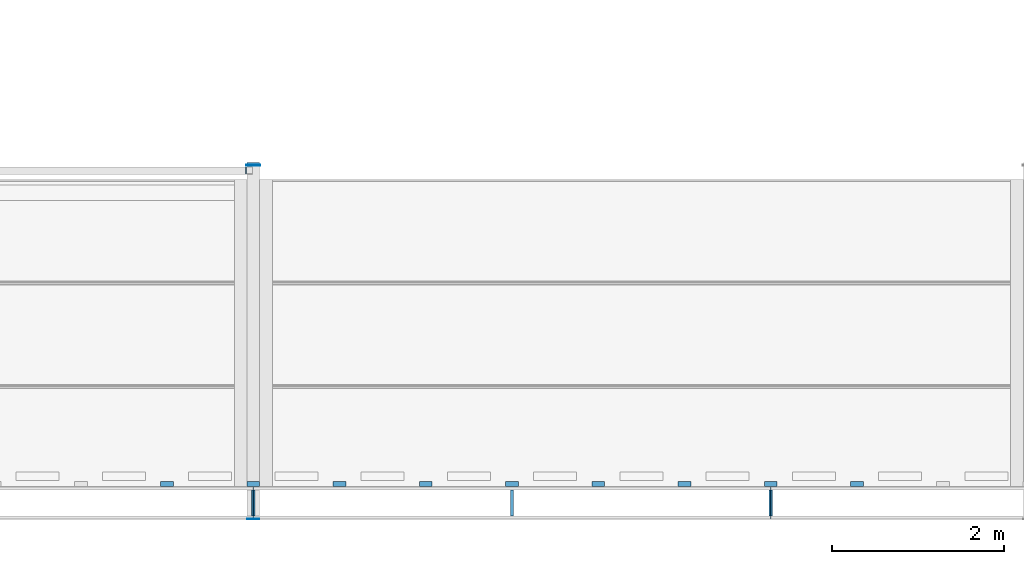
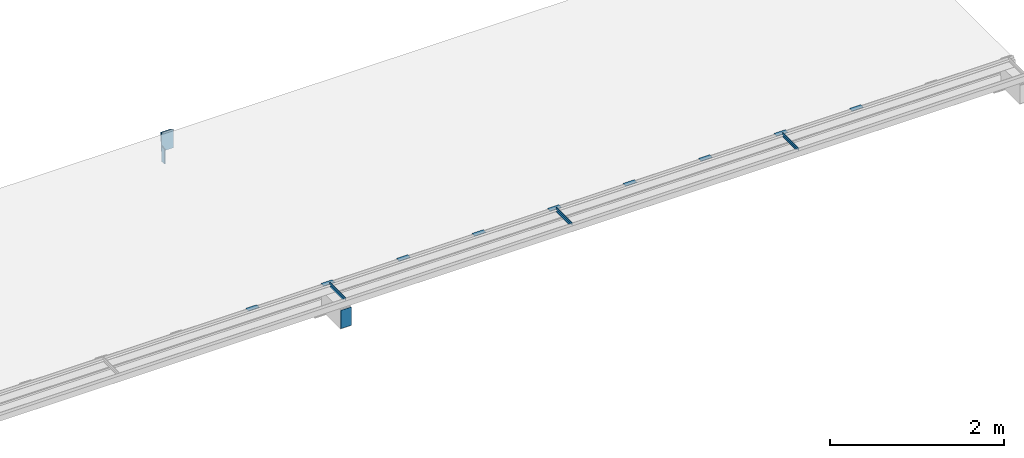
# One storey, part 7 of 13: 16 beams.
"""IFC2X3 building model written with IfcOpenShell, lengths in millimetres."""

import ifcopenshell
import ifcopenshell.guid

model = None  # the IFC model being written
_history = None  # IfcOwnerHistory: only IFC2X3 demands one
_inside = {}  # id of a spatial element -> (the spatial element, [elements in it])
_under = {}  # id of a project, library or spatial element -> (it, [spatial elements below it])
_declared = {}  # id of a project -> (the project, [libraries it declares])
_typed = {}  # id of a type object -> (the type object, [elements of that type])
_made_of = {}  # id of a material, layer set ... -> (it, [elements and type objects made of it])


def new_model(schema):
    """Start an empty IFC model of exactly this schema.

    Asked for "IFC4X3", IfcOpenShell would pick the latest addendum, in which some entities
    have other attributes; the version numbers below select the first issue.
    IFC2X3 requires an IfcOwnerHistory on every rooted entity: one is made here for all.
    """
    global model, _history
    if schema == "IFC4X3":
        model = ifcopenshell.file(schema_version=(4, 3, 0, 0))
    else:
        model = ifcopenshell.file(schema=schema)
    _inside.clear()
    _under.clear()
    _declared.clear()
    _typed.clear()
    _made_of.clear()
    _history = None
    if model.schema == "IFC2X3":
        org = make("IfcOrganization", Name="unknown")
        user = make(
            "IfcPersonAndOrganization",
            ThePerson=make("IfcPerson", FamilyName="unknown"),
            TheOrganization=org,
        )
        app = make(
            "IfcApplication",
            ApplicationDeveloper=org,
            Version="unknown",
            ApplicationFullName="unknown",
            ApplicationIdentifier="unknown",
        )
        _history = make(
            "IfcOwnerHistory",
            OwningUser=user,
            OwningApplication=app,
            ChangeAction="ADDED",
            CreationDate=0,
        )
    return model


def make(cls, **values):
    """One entity of the class cls with the attributes given. An attribute that is None is left unset."""
    return model.create_entity(
        cls, **{name: value for name, value in values.items() if value is not None}
    )


def entity(cls, *values):
    """Any entity or typed value of the class cls, its attributes in the order of the schema. None: left unset."""
    e = model.create_entity(cls)
    for i, value in enumerate(values):
        if value is not None:
            e[i] = value
    return e


def rooted(cls, **values):
    """An entity with a GlobalId (a new one), such as an element, a storey or a relation."""
    return make(cls, GlobalId=ifcopenshell.guid.new(), OwnerHistory=_history, **values)


def si_unit(unit_type, name, prefix=None):
    """IfcSIUnit, for example si_unit("LENGTHUNIT", "METRE", prefix="MILLI")."""
    return make("IfcSIUnit", UnitType=unit_type, Prefix=prefix, Name=name)


def converted_unit(unit_type, name, factor, base, dimensions=None, offset=None):
    """IfcConversionBasedUnit, such as the inch: factor (a typed value) times the base unit."""
    return make(
        "IfcConversionBasedUnit"
        if offset is None
        else "IfcConversionBasedUnitWithOffset",
        ConversionOffset=offset,
        Dimensions=None
        if dimensions is None
        else entity("IfcDimensionalExponents", *dimensions),
        UnitType=unit_type,
        Name=name,
        ConversionFactor=make(
            "IfcMeasureWithUnit", ValueComponent=factor, UnitComponent=base
        ),
    )


def derived_unit(unit_type, elements):
    """IfcDerivedUnit: a product of units, each with its exponent."""
    return make(
        "IfcDerivedUnit",
        Elements=[
            make("IfcDerivedUnitElement", Unit=unit, Exponent=power)
            for unit, power in elements
        ],
        UnitType=unit_type,
    )


def assignment(units):
    """IfcUnitAssignment: the units of a project."""
    return None if units is None else make("IfcUnitAssignment", Units=units)


def point(xyz):
    """IfcCartesianPoint."""
    return None if xyz is None else make("IfcCartesianPoint", Coordinates=xyz)


def direction(xyz):
    """IfcDirection."""
    return None if xyz is None else make("IfcDirection", DirectionRatios=xyz)


def frame(location, z_axis=None, x_axis=None):
    """IfcAxis2Placement3D, a coordinate frame: its origin and axes. An axis left out is left unset."""
    return make(
        "IfcAxis2Placement3D",
        Location=point(location),
        Axis=direction(z_axis),
        RefDirection=direction(x_axis),
    )


def origin_with_axes():
    """The frame at (0, 0, 0) with the z axis (0, 0, 1) and the x axis (1, 0, 0) written out."""
    return frame((0.0, 0.0, 0.0), z_axis=(0.0, 0.0, 1.0), x_axis=(1.0, 0.0, 0.0))


def place(relative_to, where):
    """IfcLocalPlacement: puts the frame where relative to a parent placement (None: the world)."""
    return make(
        "IfcLocalPlacement", PlacementRelTo=relative_to, RelativePlacement=where
    )


def context(
    kind, dimensions, precision=None, world=None, true_north=None, identifier=None
):
    """IfcGeometricRepresentationContext, for example the 3D "Model" context."""
    return make(
        "IfcGeometricRepresentationContext",
        ContextIdentifier=identifier,
        ContextType=kind,
        CoordinateSpaceDimension=dimensions,
        Precision=precision,
        WorldCoordinateSystem=world,
        TrueNorth=true_north,
    )


def subcontext(parent, identifier, kind, view, scale=None):
    """IfcGeometricRepresentationSubContext, for example "Body" below "Model"."""
    return make(
        "IfcGeometricRepresentationSubContext",
        ContextIdentifier=identifier,
        ContextType=kind,
        ParentContext=parent,
        TargetScale=scale,
        TargetView=view,
    )


def project(units=None, contexts=None):
    """IfcProject with its units and contexts."""
    return rooted(
        "IfcProject",
        Name="project",
        RepresentationContexts=contexts,
        UnitsInContext=assignment(units),
    )


def spatial(cls, under=None, at=None, **own):
    """A site, building, storey or space (cls), placed at a placement, below another one or the project."""
    s = rooted(cls, ObjectPlacement=at, **own)
    if under is not None:
        _under.setdefault(under.id(), (under, []))[1].append(s)
    return s


def faces_of(points, faces, orient=None, outer=None):
    """IfcFace entities. A face is a list of loops; a loop is a list of indices into points, from 0.

    orient and outer hold one flag for each loop. By default every Orientation is true, the
    first loop of a face is its IfcFaceOuterBound and the others are IfcFaceBound.
    """
    made = []
    for i, loops in enumerate(faces):
        bounds = []
        for j, loop in enumerate(loops):
            is_outer = j == 0 if outer is None else outer[i][j]
            bounds.append(
                make(
                    "IfcFaceOuterBound" if is_outer else "IfcFaceBound",
                    Bound=make("IfcPolyLoop", Polygon=[points[k] for k in loop]),
                    Orientation=True if orient is None else orient[i][j],
                )
            )
        made.append(make("IfcFace", Bounds=bounds))
    return made


def faceted_brep(points, faces, orient=None, outer=None, voids=None):
    """IfcFacetedBrep: a solid bounded by flat faces; with voids (closed shells), ...WithVoids."""
    shared = [point(p) for p in points]
    hull = make("IfcClosedShell", CfsFaces=faces_of(shared, faces, orient, outer))
    if voids is None:
        return make("IfcFacetedBrep", Outer=hull)
    return make(
        "IfcFacetedBrepWithVoids",
        Outer=hull,
        Voids=[
            make(cls, CfsFaces=faces_of(shared, fs, o, b)) for cls, fs, o, b in voids
        ],
    )


def shape(context_of_items, identifier, shape_type, items):
    """IfcShapeRepresentation: the items that make up one representation, for example the "Body"."""
    return make(
        "IfcShapeRepresentation",
        ContextOfItems=context_of_items,
        RepresentationIdentifier=identifier,
        RepresentationType=shape_type,
        Items=items,
    )


def material(Name=None, Category=None):
    """IfcMaterial."""
    return make("IfcMaterial", Name=Name, Category=Category)


def made_of(thing, what):
    """Note that an element or type object is made of a material, layer set ...; save() writes the relation."""
    if what is not None:
        _made_of.setdefault(what.id(), (what, []))[1].append(thing)
    return thing


def type_object(cls, material=None, **own):
    """A type object (cls), such as IfcWallType, which elements share."""
    return made_of(rooted(cls, **own), material)


def element(
    cls,
    number,
    at=None,
    inside=None,
    cuts=None,
    type_object=None,
    material=None,
    context=None,
    identifier="Body",
    shape_type=None,
    held_by="IfcProductDefinitionShape",
    body=None,
    shapes=None,
    **own,
):
    """One element of the class cls, such as IfcWall. Its Tag is "e" and its number.

    at: its placement. inside: the storey or other place that contains it. cuts: it is an
    opening in that element (IfcRelVoidsElement). A single representation is given by context,
    identifier, shape_type and body (its items); several are given by shapes. held_by: the class
    of the entity that holds the representations. save() writes the other relations.
    """
    e = rooted(cls, Tag="e%d" % number, ObjectPlacement=at, **own)
    if body is not None:
        shapes = [shape(context, identifier, shape_type, body)]
    if shapes is not None:
        e.Representation = make(held_by, Representations=shapes)
    if inside is not None:
        _inside.setdefault(inside.id(), (inside, []))[1].append(e)
    if cuts is not None:
        rooted(
            "IfcRelVoidsElement", RelatingBuildingElement=cuts, RelatedOpeningElement=e
        )
    if type_object is not None:
        _typed.setdefault(type_object.id(), (type_object, []))[1].append(e)
    return made_of(e, material)


def aggregate(whole, parts):
    """IfcRelAggregates: a whole, such as a stair, and the parts it consists of."""
    return rooted("IfcRelAggregates", RelatingObject=whole, RelatedObjects=parts)


def save(model, path):
    """Write the relations noted so far, then the file.

    IfcRelAggregates (storeys below a building ...), IfcRelContainedInSpatialStructure (elements
    in a storey), IfcRelDefinesByType, IfcRelAssociatesMaterial and IfcRelDeclares: one each for
    every whole, place, type object, material and project.
    """
    for whole, parts in _under.values():
        aggregate(whole, parts)
    for where, things in _inside.values():
        rooted(
            "IfcRelContainedInSpatialStructure",
            RelatedElements=things,
            RelatingStructure=where,
        )
    for kind, things in _typed.values():
        rooted("IfcRelDefinesByType", RelatedObjects=things, RelatingType=kind)
    for what, things in _made_of.values():
        rooted("IfcRelAssociatesMaterial", RelatedObjects=things, RelatingMaterial=what)
    for by, libraries in _declared.values():
        rooted("IfcRelDeclares", RelatingContext=by, RelatedDefinitions=libraries)
    model.write(path)


model = new_model("IFC2X3")

# Units and contexts
model_context = context("Model", 3, precision=0.01, world=frame((0.0, 4.29681676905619e-09, 0.0)), true_north=direction((4.01073788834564e-13, 1.0)))
plan_context = context("Plan", 3, precision=0.01, world=frame((0.0, 4.29681676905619e-09, 0.0)), true_north=direction((4.01073788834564e-13, 1.0)))
body_context = subcontext(model_context, "Body", "Model", "MODEL_VIEW")
ifc_project = project(units=[converted_unit("PLANEANGLEUNIT", "DEGREE", entity("IfcPositiveLengthMeasure", 0.0174532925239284), si_unit("PLANEANGLEUNIT", "RADIAN"), dimensions=[0, 0, 0, 0, 0, 0, 0]), si_unit("AREAUNIT", "SQUARE_METRE"), si_unit("LENGTHUNIT", "METRE", prefix="MILLI"), si_unit("MASSUNIT", "GRAM", prefix="KILO"), si_unit("POWERUNIT", "WATT"), si_unit("PRESSUREUNIT", "PASCAL", prefix="KILO"), si_unit("FORCEUNIT", "NEWTON", prefix="KILO"), si_unit("ELECTRICVOLTAGEUNIT", "VOLT"), si_unit("ELECTRICCURRENTUNIT", "AMPERE"), si_unit("THERMODYNAMICTEMPERATUREUNIT", "DEGREE_CELSIUS"), si_unit("TIMEUNIT", "SECOND"), si_unit("VOLUMEUNIT", "CUBIC_METRE"), derived_unit("LINEARVELOCITYUNIT", [(si_unit("LENGTHUNIT", "METRE"), 1), (si_unit("TIMEUNIT", "SECOND"), -1)]), derived_unit("VOLUMETRICFLOWRATEUNIT", [(si_unit("VOLUMEUNIT", "CUBIC_METRE"), 1), (si_unit("TIMEUNIT", "SECOND"), -1)]), derived_unit("THERMALTRANSMITTANCEUNIT", [(si_unit("POWERUNIT", "WATT"), 1), (si_unit("THERMODYNAMICTEMPERATUREUNIT", "KELVIN"), -1), (si_unit("AREAUNIT", "SQUARE_METRE"), -1)]), derived_unit("SOUNDPRESSUREUNIT", [(si_unit("PRESSUREUNIT", "PASCAL"), 1)])], contexts=[model_context, plan_context])

# Site, building, storey
site_placement = place(None, frame((0.0, -4.29681676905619e-09, 0.0), z_axis=(0.0, 0.0, 1.0), x_axis=(1.0, 0.0, 0.0)))
site = spatial("IfcSite", under=ifc_project, at=site_placement, Name="Gardermoen", CompositionType="ELEMENT")
building_placement = place(site_placement, frame((0.0, 4.29681676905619e-09, 0.0), z_axis=(0.0, 0.0, 1.0), x_axis=(1.0, 0.0, 0.0)))
building = spatial("IfcBuilding", under=site, at=building_placement, Name="TG", CompositionType="ELEMENT")
storey_placement = place(building_placement, origin_with_axes())
storey = spatial("IfcBuildingStorey", under=building, at=storey_placement, Name="G", CompositionType="ELEMENT", Elevation=0.0)

# Beams
ifc_material_1 = material(Name="STEEL/S355J0")
beam_type_1 = type_object("IfcBeamType", Name="PL5*140", PredefinedType="NOTDEFINED")
beam_1_placement = place(storey_placement, frame((340000.000872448, 458182.5, 213293.0), z_axis=(1.0, 0.0, 0.0), x_axis=(0.0, 0.0, 1.0)))
element("IfcBeam", 1, at=beam_1_placement, inside=storey, type_object=beam_type_1, material=ifc_material_1, Name="STÅLBJELKE", ObjectType="PL5*140", context=body_context, shape_type="Brep", body=[
    faceted_brep([(0.0, 2.5, -70.0), (0.0, 2.5, 70.0), (257.0, 2.5, 70.0), (257.0, 2.5, -70.0), (0.0, -2.5, 70.0), (257.0, -2.5, 70.0), (0.0, -2.5, -70.0), (257.0, -2.5, -70.0)], [[[0, 1, 2, 3]], [[1, 4, 5, 2]], [[4, 6, 7, 5]], [[6, 0, 3, 7]], [[5, 7, 3, 2]], [[6, 4, 1, 0]]]),
])
beam_type_2 = type_object("IfcBeamType", Name="PL10*160", PredefinedType="NOTDEFINED")
beam_2_placement = place(storey_placement, frame((340000.000002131, 462285.999973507, 213291.5), z_axis=(-1.0, 0.0, 0.0), x_axis=(0.0, 0.0, 1.0)))
element("IfcBeam", 2, at=beam_2_placement, inside=storey, type_object=beam_type_2, material=ifc_material_1, Name="STÅLBJELKE", ObjectType="PL10*160", context=body_context, shape_type="Brep", body=[
    faceted_brep([(0.0, 5.0, -80.0), (0.0, 5.0, 80.0), (260.0, 5.0, 80.0), (260.0, 5.0, -80.0), (0.0, -5.0, 80.0), (260.0, -5.0, 80.0), (0.0, -5.0, -80.0), (260.0, -5.0, -80.0)], [[[0, 1, 2, 3]], [[1, 4, 5, 2]], [[4, 6, 7, 5]], [[6, 0, 3, 7]], [[5, 7, 3, 2]], [[6, 4, 1, 0]]]),
])
ifc_material_2 = material(Name="STEEL/S355")
beam_type_3 = type_object("IfcBeamType", Name="25*140", PredefinedType="NOTDEFINED")
beam_3_placement = place(storey_placement, frame((339999.999125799, 462303.499965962, 213541.000007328), z_axis=(0.0, -1.0, 0.0), x_axis=(0.0, 0.0, -1.0)))
element("IfcBeam", 3, at=beam_3_placement, inside=storey, type_object=beam_type_3, material=ifc_material_2, Name="STÅLBJELKE", ObjectType="25*140", context=body_context, shape_type="Brep", body=[
    faceted_brep([(5.82076609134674e-10, 69.9999999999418, -12.5000000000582), (6.98491930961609e-10, 69.9999999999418, 12.5), (129.999999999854, 69.9999999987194, 12.5000000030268), (129.999999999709, 69.9999999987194, -12.4999999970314), (-6.11180439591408e-10, -70.0000000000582, 12.5), (129.999999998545, -70.0000000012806, 12.5000000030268), (-7.27595761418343e-10, -70.0000000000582, -12.5000000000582), (129.999999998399, -70.0000000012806, -12.4999999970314)], [[[0, 1, 2, 3]], [[1, 4, 5, 2]], [[4, 6, 7, 5]], [[6, 0, 3, 7]], [[5, 7, 3, 2]], [[6, 4, 1, 0]]]),
])
beam_type_4 = type_object("IfcBeamType", Name="T40", PredefinedType="NOTDEFINED")
for number, where, z_axis, x_axis in (
    (4, (346000.0, 458184.0, 213680.131614), (0.0, 0.0, -1.0), (0.0, 1.0, 0.0)),
    (5, (343000.0, 458184.0, 213680.131614), (0.0, 0.0, -1.0), (0.0, 1.0, 0.0)),
    (6, (340000.0, 458184.0, 213680.131614), (0.0, 0.0, -1.0), (0.0, 1.0, 0.0)),
):
    element("IfcBeam", number, at=place(storey_placement, frame(where, z_axis=z_axis, x_axis=x_axis)), inside=storey, type_object=beam_type_4, material=ifc_material_2, Name="STÅLBJELKE", ObjectType="T40", context=body_context, shape_type="Brep", body=[
        faceted_brep([(35.9999576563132, -2.5, 15.0), (35.9999798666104, 2.5, 15.0), (0.0, 2.5, 15.0), (0.0, -2.5, 15.0), (35.9999602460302, -19.9999999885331, 20.0006316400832), (35.9997825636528, 20.0, 20.0), (35.9998799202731, 20.0, 15.0), (36.0000576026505, -20.0, 15.0), (0.0, -2.5, -20.0), (0.0, 2.5, -20.0), (372.0, 2.5, -20.0), (372.0, -2.5, -20.0), (372.0, 2.5, 15.0), (372.000315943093, -2.49999997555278, 14.9992803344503), (336.000315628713, 2.5, 15.0), (336.000293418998, -2.5, 15.0), (336.000395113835, -20.0, 20.0), (336.000393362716, -20.0, 15.0), (336.000215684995, 20.0, 15.0), (336.000217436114, 20.0, 20.0)], [[[0, 1, 2, 3]], [[4, 5, 6, 1, 0, 7]], [[8, 9, 10, 11]], [[11, 10, 12, 13]], [[13, 12, 14, 15]], [[16, 17, 15, 14, 18, 19]], [[17, 16, 4, 7]], [[15, 17, 7, 0]], [[8, 11, 13, 15, 0, 3]], [[9, 8, 3, 2]], [[14, 12, 10, 9, 2, 1]], [[18, 14, 1, 6]], [[19, 18, 6, 5]], [[16, 19, 5, 4]]]),
    ])
beam_type_5 = type_object("IfcBeamType", Name="60*5", PredefinedType="NOTDEFINED")
for number, where, z_axis, x_axis in (
    (7, (346925.002562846, 458589.999997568, 213662.631638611), (0.0, -1.0, 0.0), (1.0, 0.0, 0.0)),
    (8, (345925.002562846, 458589.999997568, 213662.631638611), (0.0, -1.0, 0.0), (1.0, 0.0, 0.0)),
    (9, (344925.002562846, 458589.999997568, 213662.631638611), (0.0, -1.0, 0.0), (1.0, 0.0, 0.0)),
    (10, (343925.002562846, 458589.999997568, 213662.631638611), (0.0, -1.0, 0.0), (1.0, 0.0, 0.0)),
    (11, (342925.002562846, 458589.999997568, 213662.631638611), (0.0, -1.0, 0.0), (1.0, 0.0, 0.0)),
    (12, (341925.002562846, 458589.999997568, 213662.631638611), (0.0, -1.0, 0.0), (1.0, 0.0, 0.0)),
    (13, (340925.002562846, 458589.999997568, 213662.631638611), (0.0, -1.0, 0.0), (1.0, 0.0, 0.0)),
    (14, (339925.002562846, 458589.999997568, 213662.631638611), (0.0, -1.0, 0.0), (1.0, 0.0, 0.0)),
    (15, (338925.002562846, 458589.999997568, 213662.631638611), (0.0, -1.0, 0.0), (1.0, 0.0, 0.0)),
):
    element("IfcBeam", number, at=place(storey_placement, frame(where, z_axis=z_axis, x_axis=x_axis)), inside=storey, type_object=beam_type_5, material=ifc_material_2, Name="STÅLBJELKE", ObjectType="60*5", context=body_context, shape_type="Brep", body=[
        faceted_brep([(0.0, 2.5, -30.0), (0.0, 2.5, 30.0), (150.0, 2.5, 30.0), (150.0, 2.5, -30.0), (0.0, -2.5, 30.0), (150.0, -2.5, 30.0), (0.0, -2.5, -30.0), (150.0, -2.5, -30.0)], [[[0, 1, 2, 3]], [[1, 4, 5, 2]], [[4, 6, 7, 5]], [[6, 0, 3, 7]], [[5, 7, 3, 2]], [[6, 4, 1, 0]]]),
    ])
beam_type_6 = type_object("IfcBeamType", Name="PL10*76", PredefinedType="NOTDEFINED")
beam_4_placement = place(storey_placement, frame((339915.0, 462264.995625, 213169.6), z_axis=(0.0, -1.0, 0.0), x_axis=(0.0, 0.0, 1.0)))
element("IfcBeam", 16, at=beam_4_placement, inside=storey, type_object=beam_type_6, material=ifc_material_2, Name="STÅLBJELKE", ObjectType="PL10*76", context=body_context, shape_type="Brep", body=[
    faceted_brep([(5.82076609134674e-11, -5.0, 2.91038304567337e-11), (6.03999996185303, -5.0, 75.5), (6.03999996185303, 5.0, 75.5), (5.82076609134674e-11, 5.0, 2.91038304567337e-11), (214.759994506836, -5.0, 75.5), (214.759994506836, 5.0, 75.5), (220.800003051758, -5.0, 0.0), (220.800003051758, 5.0, 0.0)], [[[0, 1, 2, 3]], [[1, 4, 5, 2]], [[4, 6, 7, 5]], [[6, 0, 3, 7]], [[5, 7, 3, 2]], [[6, 4, 1, 0]]]),
])

save(model, "model.ifc")
